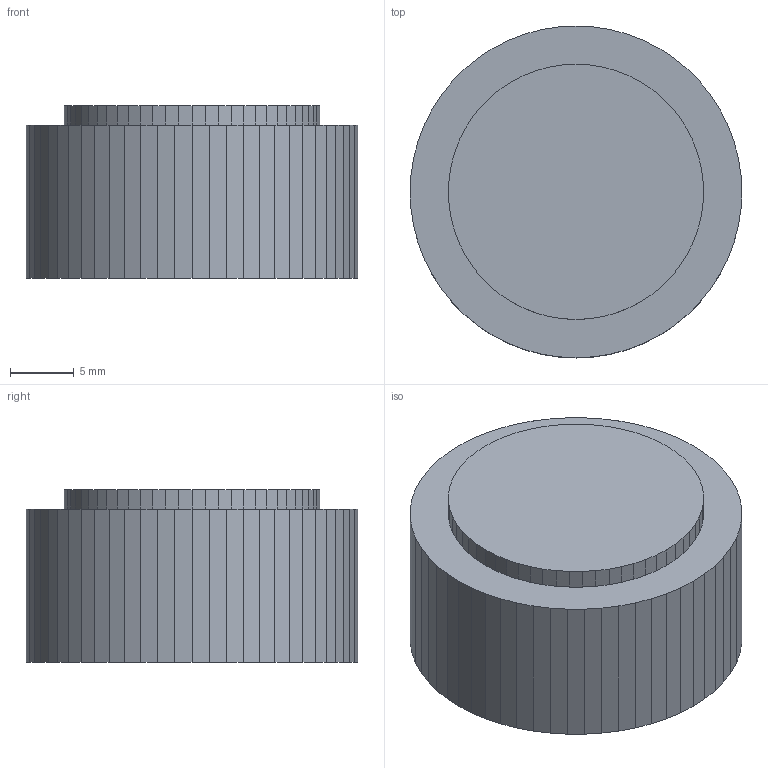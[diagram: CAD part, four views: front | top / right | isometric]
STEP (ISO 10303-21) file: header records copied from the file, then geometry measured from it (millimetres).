
FILE_DESCRIPTION(('Open CASCADE Model'),'2;1');
FILE_NAME('Open CASCADE Shape Model','2026-08-07T13:51:23',('Author'),( 'Open CASCADE'),'Open CASCADE STEP processor 7.9','Open CASCADE 7.9' ,'Unknown');
FILE_SCHEMA(('AUTOMOTIVE_DESIGN { 1 0 10303 214 1 1 1 1 }'));
Length unit declared in the file: millimetre
Products named in the file (1): 超音波霧化模組(外購)
Bounding box: 26 x 26 x 13.5 mm (x, y, z)
Volume: 6829.9 mm3; surface area: 2133.9 mm2
Topology: 1 solids, 1 shells, 123 faces, 360 edges, 240 vertices
Faces by surface type: plane 123
Entity records: 8684 total; most frequent: CARTESIAN_POINT 1444, DIRECTION 1328, LINE 1080, VECTOR 1080, ORIENTED_EDGE 720, PCURVE 720, DEFINITIONAL_REPRESENTATION 720, EDGE_CURVE 360
